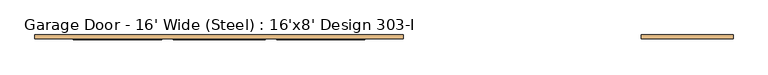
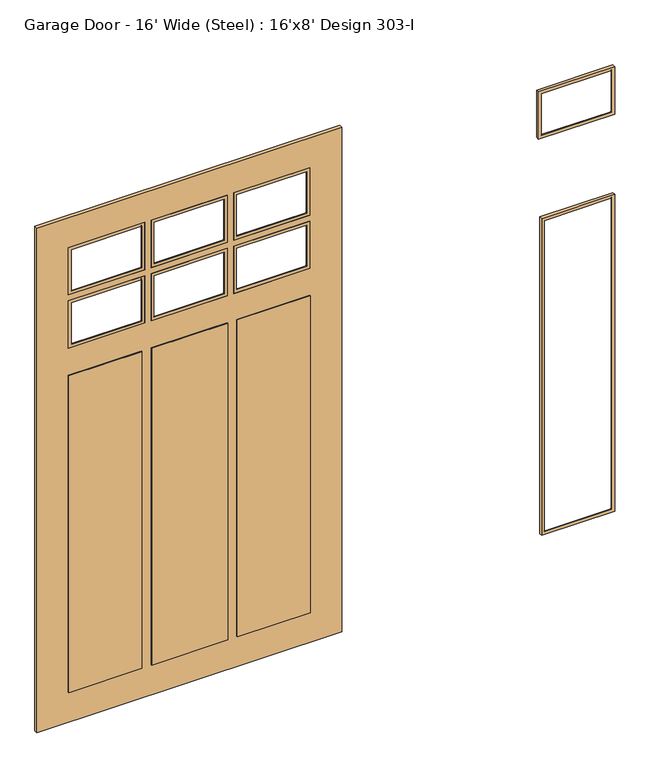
"""IFC4 building model written with IfcOpenShell, lengths in millimetres: door geometry, Garage Door - 16' Wide (Steel) : 16'x8' Design 303-I."""

from ifc_helpers import new_model, si_unit, frame, origin, place, context, project, spatial, polyline, ellipse_curve, outline, extrude, source, transform, mapped, element, save
from ifc_brep_helpers import plane_surface, cylinder_surface, advanced_brep


def garage_door_16_wide_steel_16_x8_design_303_i_88b9e82d(model_context):
    return source(origin(), model_context, "Body", "SolidModel", [
        advanced_brep(
        [(-1089.025, -107.15625, 1463.675), (-1079.5, -116.68125, 1454.15), (-1079.5, -116.68125, 139.7), (-1089.025, -107.15625, 130.175), (-1089.025, -103.98125, 1463.675), (-1089.025, -103.98125, 130.175), (-1092.2, -116.68125, 1466.85), (-1092.2, -103.98125, 1466.85), (-1092.2, -103.98125, 127.0), (-1092.2, -116.68125, 127.0), (-812.8, -116.68125, 139.7), (-803.275, -107.15625, 130.175), (-803.275, -103.98125, 130.175), (-800.1, -103.98125, 127.0), (-800.1, -116.68125, 127.0), (-812.8, -116.68125, 1454.15), (-803.275, -107.15625, 1463.675), (-803.275, -103.98125, 1463.675), (-800.1, -103.98125, 1466.85), (-800.1, -116.68125, 1466.85)],
        [
            (0, 1, ellipse_curve(frame((-1089.025, -116.68125, 1463.675), z_axis=(-0.7071067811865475, 0.0, -0.7071067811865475), x_axis=(-0.7071067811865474, 0.0, 0.7071067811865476)), 13.4703842, 9.525)),
            (1, 2),
            (2, 3, ellipse_curve(frame((-1089.025, -116.68125, 130.175), z_axis=(-0.7071067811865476, 0.0, 0.7071067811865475), x_axis=(0.7071067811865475, 0.0, 0.7071067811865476)), 13.4703842, 9.525)),
            (3, 0),
            (4, 0),
            (3, 5),
            (5, 4),
            (6, 7),
            (7, 8),
            (8, 9),
            (9, 6),
            (2, 10),
            (10, 11, ellipse_curve(frame((-803.275, -116.68125, 130.175), z_axis=(-0.7071067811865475, 0.0, -0.7071067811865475), x_axis=(-0.7071067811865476, 0.0, 0.7071067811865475)), 13.4703842, 9.525)),
            (11, 3),
            (11, 12),
            (12, 5),
            (8, 13),
            (13, 14),
            (14, 9),
            (10, 15),
            (15, 16, ellipse_curve(frame((-803.275, -116.68125, 1463.675), z_axis=(0.7071067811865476, 0.0, -0.7071067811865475), x_axis=(-0.7071067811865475, 0.0, -0.7071067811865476)), 13.4703842, 9.525)),
            (16, 11),
            (16, 17),
            (17, 12),
            (13, 18),
            (18, 19),
            (19, 14),
            (19, 6),
            (1, 15),
            (0, 16),
            (4, 17),
            (7, 18),
        ],
        [
            cylinder_surface(frame((-1089.025, -116.68125, 1466.85), z_axis=(0.0, 0.0, 1.0), x_axis=(-1.0, 0.0, 0.0)), 9.525),
            plane_surface(frame((-1089.025, -107.15625, 1463.675), z_axis=(1.0, 0.0, 0.0), x_axis=(0.0, 0.0, -1.0))),
            plane_surface(frame((-1092.2, -103.98125, 1466.85), z_axis=(-1.0, 0.0, 0.0), x_axis=(0.0, 0.0, -1.0))),
            cylinder_surface(frame((-1092.2, -116.68125, 130.175), z_axis=(-1.0, 0.0, 0.0), x_axis=(0.0, 0.0, -1.0)), 9.525),
            plane_surface(frame((-1089.025, -107.15625, 130.175), z_axis=(0.0, 0.0, 1.0), x_axis=(1.0, 0.0, 0.0))),
            plane_surface(frame((-1092.2, -103.98125, 127.0), z_axis=(0.0, 0.0, -1.0), x_axis=(1.0, 0.0, 0.0))),
            cylinder_surface(frame((-803.275, -116.68125, 127.0), z_axis=(0.0, 0.0, -1.0), x_axis=(1.0, 0.0, 0.0)), 9.525),
            plane_surface(frame((-803.275, -107.15625, 130.175), z_axis=(-1.0, 0.0, 0.0), x_axis=(0.0, 0.0, 1.0))),
            plane_surface(frame((-800.1, -103.98125, 127.0), z_axis=(1.0, 0.0, 0.0), x_axis=(0.0, 0.0, 1.0))),
            plane_surface(frame((-800.1, -116.68125, 1466.85), z_axis=(0.0, -1.0, 0.0), x_axis=(-1.0, 0.0, 0.0))),
            cylinder_surface(frame((-800.1, -116.68125, 1463.675), z_axis=(1.0, 0.0, 0.0), x_axis=(0.0, 0.0, 1.0)), 9.525),
            plane_surface(frame((-803.275, -107.15625, 1463.675), z_axis=(0.0, 0.0, -1.0), x_axis=(-1.0, 0.0, 0.0))),
            plane_surface(frame((-803.275, -103.98125, 1463.675), z_axis=(0.0, 1.0, 0.0), x_axis=(-1.0, 0.0, 0.0))),
            plane_surface(frame((-800.1, -103.98125, 1466.85), z_axis=(0.0, 0.0, 1.0), x_axis=(-1.0, 0.0, 0.0))),
        ],
        [
            (0, [[1, 2, 3, 4]]),
            (1, [[5, -4, 6, 7]]),
            (2, [[8, 9, 10, 11]]),
            (3, [[-3, 12, 13, 14]]),
            (4, [[-6, -14, 15, 16]]),
            (5, [[-10, 17, 18, 19]]),
            (6, [[-13, 20, 21, 22]]),
            (7, [[-15, -22, 23, 24]]),
            (8, [[-18, 25, 26, 27]]),
            (9, [[-19, -27, 28, -11], [29, -20, -12, -2]]),
            (10, [[-21, -29, -1, 30]]),
            (11, [[-23, -30, -5, 31]]),
            (12, [[32, -25, -17, -9], [-16, -24, -31, -7]]),
            (13, [[-26, -32, -8, -28]]),
        ],
    ),
        advanced_brep(
        [(-1089.0236908, -107.15625, 2003.4236908), (-1079.4986908, -116.68125, 1993.8986908), (-1079.4986908, -116.68125, 1819.2736908), (-1089.0236908, -107.15625, 1809.7486908), (-1089.0236908, -103.98125, 2003.4236908), (-1089.0236908, -103.98125, 1809.7486908), (-1092.1973817, -116.68125, 2006.5973817), (-1092.1973817, -103.98125, 2006.5973817), (-1092.1973817, -103.98125, 1806.575), (-1092.1973817, -116.68125, 1806.575), (-800.0986908, -116.68125, 1819.2736908), (-790.5736908, -107.15625, 1809.7486908), (-790.5736908, -103.98125, 1809.7486908), (-787.4, -103.98125, 1806.575), (-787.4, -116.68125, 1806.575), (-800.0986908, -116.68125, 1993.8986908), (-790.5736908, -107.15625, 2003.4236908), (-790.5736908, -103.98125, 2003.4236908), (-787.4, -103.98125, 2006.5973817), (-787.4, -116.68125, 2006.5973817)],
        [
            (0, 1, ellipse_curve(frame((-1089.0236908, -116.68125, 2003.4236908), z_axis=(-0.7071067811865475, 0.0, -0.7071067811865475), x_axis=(-0.7071067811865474, 0.0, 0.7071067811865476)), 13.4703842, 9.525)),
            (1, 2),
            (2, 3, ellipse_curve(frame((-1089.0236908, -116.68125, 1809.7486908), z_axis=(-0.7071067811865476, 0.0, 0.7071067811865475), x_axis=(0.7071067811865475, 0.0, 0.7071067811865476)), 13.4703842, 9.525)),
            (3, 0),
            (4, 0),
            (3, 5),
            (5, 4),
            (6, 7),
            (7, 8),
            (8, 9),
            (9, 6),
            (2, 10),
            (10, 11, ellipse_curve(frame((-790.5736908, -116.68125, 1809.7486908), z_axis=(-0.7071067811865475, 0.0, -0.7071067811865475), x_axis=(-0.7071067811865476, 0.0, 0.7071067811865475)), 13.4703842, 9.525)),
            (11, 3),
            (11, 12),
            (12, 5),
            (8, 13),
            (13, 14),
            (14, 9),
            (10, 15),
            (15, 16, ellipse_curve(frame((-790.5736908, -116.68125, 2003.4236908), z_axis=(0.7071067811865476, 0.0, -0.7071067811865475), x_axis=(-0.7071067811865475, 0.0, -0.7071067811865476)), 13.4703842, 9.525)),
            (16, 11),
            (16, 17),
            (17, 12),
            (13, 18),
            (18, 19),
            (19, 14),
            (19, 6),
            (1, 15),
            (0, 16),
            (4, 17),
            (7, 18),
        ],
        [
            cylinder_surface(frame((-1089.0236908, -116.68125, 2006.5973817), z_axis=(0.0, 0.0, 1.0), x_axis=(-1.0, 0.0, 0.0)), 9.525),
            plane_surface(frame((-1089.0236908, -107.15625, 2003.4236908), z_axis=(1.0, 0.0, 0.0), x_axis=(0.0, 0.0, -1.0))),
            plane_surface(frame((-1092.1973817, -103.98125, 2006.5973817), z_axis=(-1.0, 0.0, 0.0), x_axis=(0.0, 0.0, -1.0))),
            cylinder_surface(frame((-1092.1973817, -116.68125, 1809.7486908), z_axis=(-1.0, 0.0, 0.0), x_axis=(0.0, 0.0, -1.0)), 9.525),
            plane_surface(frame((-1089.0236908, -107.15625, 1809.7486908), z_axis=(0.0, 0.0, 1.0), x_axis=(1.0, 0.0, 0.0))),
            plane_surface(frame((-1092.1973817, -103.98125, 1806.575), z_axis=(0.0, 0.0, -1.0), x_axis=(1.0, 0.0, 0.0))),
            cylinder_surface(frame((-790.5736908, -116.68125, 1806.575), z_axis=(0.0, 0.0, -1.0), x_axis=(1.0, 0.0, 0.0)), 9.525),
            plane_surface(frame((-790.5736908, -107.15625, 1809.7486908), z_axis=(-1.0, 0.0, 0.0), x_axis=(0.0, 0.0, 1.0))),
            plane_surface(frame((-787.4, -103.98125, 1806.575), z_axis=(1.0, 0.0, 0.0), x_axis=(0.0, 0.0, 1.0))),
            plane_surface(frame((-787.4, -116.68125, 2006.5973817), z_axis=(0.0, -1.0, 0.0), x_axis=(-1.0, 0.0, 0.0))),
            cylinder_surface(frame((-787.4, -116.68125, 2003.4236908), z_axis=(1.0, 0.0, 0.0), x_axis=(0.0, 0.0, 1.0)), 9.525),
            plane_surface(frame((-790.5736908, -107.15625, 2003.4236908), z_axis=(0.0, 0.0, -1.0), x_axis=(-1.0, 0.0, 0.0))),
            plane_surface(frame((-790.5736908, -103.98125, 2003.4236908), z_axis=(0.0, 1.0, 0.0), x_axis=(-1.0, 0.0, 0.0))),
            plane_surface(frame((-787.4, -103.98125, 2006.5973817), z_axis=(0.0, 0.0, 1.0), x_axis=(-1.0, 0.0, 0.0))),
        ],
        [
            (0, [[1, 2, 3, 4]]),
            (1, [[5, -4, 6, 7]]),
            (2, [[8, 9, 10, 11]]),
            (3, [[-3, 12, 13, 14]]),
            (4, [[-6, -14, 15, 16]]),
            (5, [[-10, 17, 18, 19]]),
            (6, [[-13, 20, 21, 22]]),
            (7, [[-15, -22, 23, 24]]),
            (8, [[-18, 25, 26, 27]]),
            (9, [[-19, -27, 28, -11], [29, -20, -12, -2]]),
            (10, [[-21, -29, -1, 30]]),
            (11, [[-23, -30, -5, 31]]),
            (12, [[32, -25, -17, -9], [-16, -24, -31, -7]]),
            (13, [[-26, -32, -8, -28]]),
        ],
    ),
        advanced_brep(
        [(-758.8236908, -107.15625, 2003.4236908), (-749.2986908, -116.68125, 1993.8986908), (-749.2986908, -116.68125, 1819.2763092), (-758.8236908, -107.15625, 1809.7513092), (-758.8236908, -103.98125, 2003.4236908), (-758.8236908, -103.98125, 1809.7513092), (-761.9986908, -116.68125, 2006.5986908), (-761.9986908, -103.98125, 2006.5986908), (-761.9986908, -103.98125, 1806.5763092), (-761.9986908, -116.68125, 1806.5763092), (-469.9013092, -116.68125, 1819.2763092), (-460.3763092, -107.15625, 1809.7513092), (-460.3763092, -103.98125, 1809.7513092), (-457.2013092, -103.98125, 1806.5763092), (-457.2013092, -116.68125, 1806.5763092), (-469.9013092, -116.68125, 1993.8986908), (-460.3763092, -107.15625, 2003.4236908), (-460.3763092, -103.98125, 2003.4236908), (-457.2013092, -103.98125, 2006.5986908), (-457.2013092, -116.68125, 2006.5986908)],
        [
            (0, 1, ellipse_curve(frame((-758.8236908, -116.68125, 2003.4236908), z_axis=(-0.7071067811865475, 0.0, -0.7071067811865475), x_axis=(-0.7071067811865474, 0.0, 0.7071067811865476)), 13.4703842, 9.525)),
            (1, 2),
            (2, 3, ellipse_curve(frame((-758.8236908, -116.68125, 1809.7513092), z_axis=(-0.7071067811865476, 0.0, 0.7071067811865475), x_axis=(0.7071067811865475, 0.0, 0.7071067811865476)), 13.4703842, 9.525)),
            (3, 0),
            (4, 0),
            (3, 5),
            (5, 4),
            (6, 7),
            (7, 8),
            (8, 9),
            (9, 6),
            (2, 10),
            (10, 11, ellipse_curve(frame((-460.3763092, -116.68125, 1809.7513092), z_axis=(-0.7071067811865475, 0.0, -0.7071067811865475), x_axis=(-0.7071067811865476, 0.0, 0.7071067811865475)), 13.4703842, 9.525)),
            (11, 3),
            (11, 12),
            (12, 5),
            (8, 13),
            (13, 14),
            (14, 9),
            (10, 15),
            (15, 16, ellipse_curve(frame((-460.3763092, -116.68125, 2003.4236908), z_axis=(0.7071067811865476, 0.0, -0.7071067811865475), x_axis=(-0.7071067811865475, 0.0, -0.7071067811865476)), 13.4703842, 9.525)),
            (16, 11),
            (16, 17),
            (17, 12),
            (13, 18),
            (18, 19),
            (19, 14),
            (19, 6),
            (1, 15),
            (0, 16),
            (4, 17),
            (7, 18),
        ],
        [
            cylinder_surface(frame((-758.8236908, -116.68125, 2006.6), z_axis=(0.0, 0.0, 1.0), x_axis=(-1.0, 0.0, 0.0)), 9.525),
            plane_surface(frame((-758.8236908, -107.15625, 2003.4236908), z_axis=(1.0, 0.0, 0.0), x_axis=(0.0, 0.0, -1.0))),
            plane_surface(frame((-761.9986908, -103.98125, 2006.5986908), z_axis=(-1.0, 0.0, 0.0), x_axis=(0.0, 0.0, -1.0))),
            cylinder_surface(frame((-762.0, -116.68125, 1809.7513092), z_axis=(-1.0, 0.0, 0.0), x_axis=(0.0, 0.0, -1.0)), 9.525),
            plane_surface(frame((-758.8236908, -107.15625, 1809.7513092), z_axis=(0.0, 0.0, 1.0), x_axis=(1.0, 0.0, 0.0))),
            plane_surface(frame((-761.9986908, -103.98125, 1806.5763092), z_axis=(0.0, 0.0, -1.0), x_axis=(1.0, 0.0, 0.0))),
            cylinder_surface(frame((-460.3763092, -116.68125, 1806.575), z_axis=(0.0, 0.0, -1.0), x_axis=(1.0, 0.0, 0.0)), 9.525),
            plane_surface(frame((-460.3763092, -107.15625, 1809.7513092), z_axis=(-1.0, 0.0, 0.0), x_axis=(0.0, 0.0, 1.0))),
            plane_surface(frame((-457.2013092, -103.98125, 1806.5763092), z_axis=(1.0, 0.0, 0.0), x_axis=(0.0, 0.0, 1.0))),
            plane_surface(frame((-457.2013092, -116.68125, 2006.5986908), z_axis=(0.0, -1.0, 0.0), x_axis=(-1.0, 0.0, 0.0))),
            cylinder_surface(frame((-457.2, -116.68125, 2003.4236908), z_axis=(1.0, 0.0, 0.0), x_axis=(0.0, 0.0, 1.0)), 9.525),
            plane_surface(frame((-460.3763092, -107.15625, 2003.4236908), z_axis=(0.0, 0.0, -1.0), x_axis=(-1.0, 0.0, 0.0))),
            plane_surface(frame((-460.3763092, -103.98125, 2003.4236908), z_axis=(0.0, 1.0, 0.0), x_axis=(-1.0, 0.0, 0.0))),
            plane_surface(frame((-457.2013092, -103.98125, 2006.5986908), z_axis=(0.0, 0.0, 1.0), x_axis=(-1.0, 0.0, 0.0))),
        ],
        [
            (0, [[1, 2, 3, 4]]),
            (1, [[5, -4, 6, 7]]),
            (2, [[8, 9, 10, 11]]),
            (3, [[-3, 12, 13, 14]]),
            (4, [[-6, -14, 15, 16]]),
            (5, [[-10, 17, 18, 19]]),
            (6, [[-13, 20, 21, 22]]),
            (7, [[-15, -22, 23, 24]]),
            (8, [[-18, 25, 26, 27]]),
            (9, [[-19, -27, 28, -11], [29, -20, -12, -2]]),
            (10, [[-21, -29, -1, 30]]),
            (11, [[-23, -30, -5, 31]]),
            (12, [[32, -25, -17, -9], [-16, -24, -31, -7]]),
            (13, [[-26, -32, -8, -28]]),
        ],
    ),
        advanced_brep(
        [(-428.6276183, -107.15625, 2003.425), (-419.1026183, -116.68125, 1993.9), (-419.1026183, -116.68125, 1819.2723817), (-428.6276183, -107.15625, 1809.7473817), (-428.6276183, -103.98125, 2003.425), (-428.6276183, -103.98125, 1809.7473817), (-431.8026183, -116.68125, 2006.6), (-431.8026183, -103.98125, 2006.6), (-431.8026183, -103.98125, 1806.5723817), (-431.8026183, -116.68125, 1806.5723817), (-139.7, -116.68125, 1819.2723817), (-130.175, -107.15625, 1809.7473817), (-130.175, -103.98125, 1809.7473817), (-127.0, -103.98125, 1806.5723817), (-127.0, -116.68125, 1806.5723817), (-139.7, -116.68125, 1993.9), (-130.175, -107.15625, 2003.425), (-130.175, -103.98125, 2003.425), (-127.0, -103.98125, 2006.6), (-127.0, -116.68125, 2006.6)],
        [
            (0, 1, ellipse_curve(frame((-428.6276183, -116.68125, 2003.425), z_axis=(-0.7071067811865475, 0.0, -0.7071067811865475), x_axis=(-0.7071067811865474, 0.0, 0.7071067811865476)), 13.4703842, 9.525)),
            (1, 2),
            (2, 3, ellipse_curve(frame((-428.6276183, -116.68125, 1809.7473817), z_axis=(-0.7071067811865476, 0.0, 0.7071067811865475), x_axis=(0.7071067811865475, 0.0, 0.7071067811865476)), 13.4703842, 9.525)),
            (3, 0),
            (4, 0),
            (3, 5),
            (5, 4),
            (6, 7),
            (7, 8),
            (8, 9),
            (9, 6),
            (2, 10),
            (10, 11, ellipse_curve(frame((-130.175, -116.68125, 1809.7473817), z_axis=(-0.7071067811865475, 0.0, -0.7071067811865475), x_axis=(-0.7071067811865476, 0.0, 0.7071067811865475)), 13.4703842, 9.525)),
            (11, 3),
            (11, 12),
            (12, 5),
            (8, 13),
            (13, 14),
            (14, 9),
            (10, 15),
            (15, 16, ellipse_curve(frame((-130.175, -116.68125, 2003.425), z_axis=(0.7071067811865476, 0.0, -0.7071067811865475), x_axis=(-0.7071067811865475, 0.0, -0.7071067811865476)), 13.4703842, 9.525)),
            (16, 11),
            (16, 17),
            (17, 12),
            (13, 18),
            (18, 19),
            (19, 14),
            (19, 6),
            (1, 15),
            (0, 16),
            (4, 17),
            (7, 18),
        ],
        [
            cylinder_surface(frame((-428.6276183, -116.68125, 2006.5973817), z_axis=(0.0, 0.0, 1.0), x_axis=(-1.0, 0.0, 0.0)), 9.525),
            plane_surface(frame((-428.6276183, -107.15625, 2003.425), z_axis=(1.0, 0.0, 0.0), x_axis=(0.0, 0.0, -1.0))),
            plane_surface(frame((-431.8026183, -103.98125, 2006.6), z_axis=(-1.0, 0.0, 0.0), x_axis=(0.0, 0.0, -1.0))),
            cylinder_surface(frame((-431.8, -116.68125, 1809.7473817), z_axis=(-1.0, 0.0, 0.0), x_axis=(0.0, 0.0, -1.0)), 9.525),
            plane_surface(frame((-428.6276183, -107.15625, 1809.7473817), z_axis=(0.0, 0.0, 1.0), x_axis=(1.0, 0.0, 0.0))),
            plane_surface(frame((-431.8026183, -103.98125, 1806.5723817), z_axis=(0.0, 0.0, -1.0), x_axis=(1.0, 0.0, 0.0))),
            cylinder_surface(frame((-130.175, -116.68125, 1806.575), z_axis=(0.0, 0.0, -1.0), x_axis=(1.0, 0.0, 0.0)), 9.525),
            plane_surface(frame((-130.175, -107.15625, 1809.7473817), z_axis=(-1.0, 0.0, 0.0), x_axis=(0.0, 0.0, 1.0))),
            plane_surface(frame((-127.0, -103.98125, 1806.5723817), z_axis=(1.0, 0.0, 0.0), x_axis=(0.0, 0.0, 1.0))),
            plane_surface(frame((-127.0, -116.68125, 2006.6), z_axis=(0.0, -1.0, 0.0), x_axis=(-1.0, 0.0, 0.0))),
            cylinder_surface(frame((-127.0026183, -116.68125, 2003.425), z_axis=(1.0, 0.0, 0.0), x_axis=(0.0, 0.0, 1.0)), 9.525),
            plane_surface(frame((-130.175, -107.15625, 2003.425), z_axis=(0.0, 0.0, -1.0), x_axis=(-1.0, 0.0, 0.0))),
            plane_surface(frame((-130.175, -103.98125, 2003.425), z_axis=(0.0, 1.0, 0.0), x_axis=(-1.0, 0.0, 0.0))),
            plane_surface(frame((-127.0, -103.98125, 2006.6), z_axis=(0.0, 0.0, 1.0), x_axis=(-1.0, 0.0, 0.0))),
        ],
        [
            (0, [[1, 2, 3, 4]]),
            (1, [[5, -4, 6, 7]]),
            (2, [[8, 9, 10, 11]]),
            (3, [[-3, 12, 13, 14]]),
            (4, [[-6, -14, 15, 16]]),
            (5, [[-10, 17, 18, 19]]),
            (6, [[-13, 20, 21, 22]]),
            (7, [[-15, -22, 23, 24]]),
            (8, [[-18, 25, 26, 27]]),
            (9, [[-19, -27, 28, -11], [29, -20, -12, -2]]),
            (10, [[-21, -29, -1, 30]]),
            (11, [[-23, -30, -5, 31]]),
            (12, [[32, -25, -17, -9], [-16, -24, -31, -7]]),
            (13, [[-26, -32, -8, -28]]),
        ],
    ),
        advanced_brep(
        [(-1089.025, -107.15625, 1778.0), (-1079.5, -116.68125, 1768.475), (-1079.5, -116.68125, 1593.85), (-1089.025, -107.15625, 1584.325), (-1089.025, -103.98125, 1778.0), (-1089.025, -103.98125, 1584.325), (-1092.2, -116.68125, 1781.175), (-1092.2, -103.98125, 1781.175), (-1092.2, -103.98125, 1581.15), (-1092.2, -116.68125, 1581.15), (-800.1, -116.68125, 1593.85), (-790.575, -107.15625, 1584.325), (-790.575, -103.98125, 1584.325), (-787.4, -103.98125, 1581.15), (-787.4, -116.68125, 1581.15), (-800.1, -116.68125, 1768.475), (-790.575, -107.15625, 1778.0), (-790.575, -103.98125, 1778.0), (-787.4, -103.98125, 1781.175), (-787.4, -116.68125, 1781.175)],
        [
            (0, 1, ellipse_curve(frame((-1089.025, -116.68125, 1778.0), z_axis=(-0.7071067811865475, 0.0, -0.7071067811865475), x_axis=(-0.7071067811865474, 0.0, 0.7071067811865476)), 13.4703842, 9.525)),
            (1, 2),
            (2, 3, ellipse_curve(frame((-1089.025, -116.68125, 1584.325), z_axis=(-0.7071067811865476, 0.0, 0.7071067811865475), x_axis=(0.7071067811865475, 0.0, 0.7071067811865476)), 13.4703842, 9.525)),
            (3, 0),
            (4, 0),
            (3, 5),
            (5, 4),
            (6, 7),
            (7, 8),
            (8, 9),
            (9, 6),
            (2, 10),
            (10, 11, ellipse_curve(frame((-790.575, -116.68125, 1584.325), z_axis=(-0.7071067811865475, 0.0, -0.7071067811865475), x_axis=(-0.7071067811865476, 0.0, 0.7071067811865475)), 13.4703842, 9.525)),
            (11, 3),
            (11, 12),
            (12, 5),
            (8, 13),
            (13, 14),
            (14, 9),
            (10, 15),
            (15, 16, ellipse_curve(frame((-790.575, -116.68125, 1778.0), z_axis=(0.7071067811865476, 0.0, -0.7071067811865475), x_axis=(-0.7071067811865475, 0.0, -0.7071067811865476)), 13.4703842, 9.525)),
            (16, 11),
            (16, 17),
            (17, 12),
            (13, 18),
            (18, 19),
            (19, 14),
            (19, 6),
            (1, 15),
            (0, 16),
            (4, 17),
            (7, 18),
        ],
        [
            cylinder_surface(frame((-1089.025, -116.68125, 1781.175), z_axis=(0.0, 0.0, 1.0), x_axis=(-1.0, 0.0, 0.0)), 9.525),
            plane_surface(frame((-1089.025, -107.15625, 1778.0), z_axis=(1.0, 0.0, 0.0), x_axis=(0.0, 0.0, -1.0))),
            plane_surface(frame((-1092.2, -103.98125, 1781.175), z_axis=(-1.0, 0.0, 0.0), x_axis=(0.0, 0.0, -1.0))),
            cylinder_surface(frame((-1092.2, -116.68125, 1584.325), z_axis=(-1.0, 0.0, 0.0), x_axis=(0.0, 0.0, -1.0)), 9.525),
            plane_surface(frame((-1089.025, -107.15625, 1584.325), z_axis=(0.0, 0.0, 1.0), x_axis=(1.0, 0.0, 0.0))),
            plane_surface(frame((-1092.2, -103.98125, 1581.15), z_axis=(0.0, 0.0, -1.0), x_axis=(1.0, 0.0, 0.0))),
            cylinder_surface(frame((-790.575, -116.68125, 1581.15), z_axis=(0.0, 0.0, -1.0), x_axis=(1.0, 0.0, 0.0)), 9.525),
            plane_surface(frame((-790.575, -107.15625, 1584.325), z_axis=(-1.0, 0.0, 0.0), x_axis=(0.0, 0.0, 1.0))),
            plane_surface(frame((-787.4, -103.98125, 1581.15), z_axis=(1.0, 0.0, 0.0), x_axis=(0.0, 0.0, 1.0))),
            plane_surface(frame((-787.4, -116.68125, 1781.175), z_axis=(0.0, -1.0, 0.0), x_axis=(-1.0, 0.0, 0.0))),
            cylinder_surface(frame((-787.4, -116.68125, 1778.0), z_axis=(1.0, 0.0, 0.0), x_axis=(0.0, 0.0, 1.0)), 9.525),
            plane_surface(frame((-790.575, -107.15625, 1778.0), z_axis=(0.0, 0.0, -1.0), x_axis=(-1.0, 0.0, 0.0))),
            plane_surface(frame((-790.575, -103.98125, 1778.0), z_axis=(0.0, 1.0, 0.0), x_axis=(-1.0, 0.0, 0.0))),
            plane_surface(frame((-787.4, -103.98125, 1781.175), z_axis=(0.0, 0.0, 1.0), x_axis=(-1.0, 0.0, 0.0))),
        ],
        [
            (0, [[1, 2, 3, 4]]),
            (1, [[5, -4, 6, 7]]),
            (2, [[8, 9, 10, 11]]),
            (3, [[-3, 12, 13, 14]]),
            (4, [[-6, -14, 15, 16]]),
            (5, [[-10, 17, 18, 19]]),
            (6, [[-13, 20, 21, 22]]),
            (7, [[-15, -22, 23, 24]]),
            (8, [[-18, 25, 26, 27]]),
            (9, [[-19, -27, 28, -11], [29, -20, -12, -2]]),
            (10, [[-21, -29, -1, 30]]),
            (11, [[-23, -30, -5, 31]]),
            (12, [[32, -25, -17, -9], [-16, -24, -31, -7]]),
            (13, [[-26, -32, -8, -28]]),
        ],
    ),
        advanced_brep(
        [(-758.825, -107.15625, 1778.0), (-749.3, -116.68125, 1768.475), (-749.3, -116.68125, 1593.85), (-758.825, -107.15625, 1584.325), (-758.825, -103.98125, 1778.0), (-758.825, -103.98125, 1584.325), (-762.0, -116.68125, 1781.175), (-762.0, -103.98125, 1781.175), (-762.0, -103.98125, 1581.15), (-762.0, -116.68125, 1581.15), (-469.9, -116.68125, 1593.85), (-460.375, -107.15625, 1584.325), (-460.375, -103.98125, 1584.325), (-457.2, -103.98125, 1581.15), (-457.2, -116.68125, 1581.15), (-469.9, -116.68125, 1768.475), (-460.375, -107.15625, 1778.0), (-460.375, -103.98125, 1778.0), (-457.2, -103.98125, 1781.175), (-457.2, -116.68125, 1781.175)],
        [
            (0, 1, ellipse_curve(frame((-758.825, -116.68125, 1778.0), z_axis=(-0.7071067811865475, 0.0, -0.7071067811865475), x_axis=(-0.7071067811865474, 0.0, 0.7071067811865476)), 13.4703842, 9.525)),
            (1, 2),
            (2, 3, ellipse_curve(frame((-758.825, -116.68125, 1584.325), z_axis=(-0.7071067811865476, 0.0, 0.7071067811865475), x_axis=(0.7071067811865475, 0.0, 0.7071067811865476)), 13.4703842, 9.525)),
            (3, 0),
            (4, 0),
            (3, 5),
            (5, 4),
            (6, 7),
            (7, 8),
            (8, 9),
            (9, 6),
            (2, 10),
            (10, 11, ellipse_curve(frame((-460.375, -116.68125, 1584.325), z_axis=(-0.7071067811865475, 0.0, -0.7071067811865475), x_axis=(-0.7071067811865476, 0.0, 0.7071067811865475)), 13.4703842, 9.525)),
            (11, 3),
            (11, 12),
            (12, 5),
            (8, 13),
            (13, 14),
            (14, 9),
            (10, 15),
            (15, 16, ellipse_curve(frame((-460.375, -116.68125, 1778.0), z_axis=(0.7071067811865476, 0.0, -0.7071067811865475), x_axis=(-0.7071067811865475, 0.0, -0.7071067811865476)), 13.4703842, 9.525)),
            (16, 11),
            (16, 17),
            (17, 12),
            (13, 18),
            (18, 19),
            (19, 14),
            (19, 6),
            (1, 15),
            (0, 16),
            (4, 17),
            (7, 18),
        ],
        [
            cylinder_surface(frame((-758.825, -116.68125, 1781.175), z_axis=(0.0, 0.0, 1.0), x_axis=(-1.0, 0.0, 0.0)), 9.525),
            plane_surface(frame((-758.825, -107.15625, 1778.0), z_axis=(1.0, 0.0, 0.0), x_axis=(0.0, 0.0, -1.0))),
            plane_surface(frame((-762.0, -103.98125, 1781.175), z_axis=(-1.0, 0.0, 0.0), x_axis=(0.0, 0.0, -1.0))),
            cylinder_surface(frame((-762.0, -116.68125, 1584.325), z_axis=(-1.0, 0.0, 0.0), x_axis=(0.0, 0.0, -1.0)), 9.525),
            plane_surface(frame((-758.825, -107.15625, 1584.325), z_axis=(0.0, 0.0, 1.0), x_axis=(1.0, 0.0, 0.0))),
            plane_surface(frame((-762.0, -103.98125, 1581.15), z_axis=(0.0, 0.0, -1.0), x_axis=(1.0, 0.0, 0.0))),
            cylinder_surface(frame((-460.375, -116.68125, 1581.15), z_axis=(0.0, 0.0, -1.0), x_axis=(1.0, 0.0, 0.0)), 9.525),
            plane_surface(frame((-460.375, -107.15625, 1584.325), z_axis=(-1.0, 0.0, 0.0), x_axis=(0.0, 0.0, 1.0))),
            plane_surface(frame((-457.2, -103.98125, 1581.15), z_axis=(1.0, 0.0, 0.0), x_axis=(0.0, 0.0, 1.0))),
            plane_surface(frame((-457.2, -116.68125, 1781.175), z_axis=(0.0, -1.0, 0.0), x_axis=(-1.0, 0.0, 0.0))),
            cylinder_surface(frame((-457.2, -116.68125, 1778.0), z_axis=(1.0, 0.0, 0.0), x_axis=(0.0, 0.0, 1.0)), 9.525),
            plane_surface(frame((-460.375, -107.15625, 1778.0), z_axis=(0.0, 0.0, -1.0), x_axis=(-1.0, 0.0, 0.0))),
            plane_surface(frame((-460.375, -103.98125, 1778.0), z_axis=(0.0, 1.0, 0.0), x_axis=(-1.0, 0.0, 0.0))),
            plane_surface(frame((-457.2, -103.98125, 1781.175), z_axis=(0.0, 0.0, 1.0), x_axis=(-1.0, 0.0, 0.0))),
        ],
        [
            (0, [[1, 2, 3, 4]]),
            (1, [[5, -4, 6, 7]]),
            (2, [[8, 9, 10, 11]]),
            (3, [[-3, 12, 13, 14]]),
            (4, [[-6, -14, 15, 16]]),
            (5, [[-10, 17, 18, 19]]),
            (6, [[-13, 20, 21, 22]]),
            (7, [[-15, -22, 23, 24]]),
            (8, [[-18, 25, 26, 27]]),
            (9, [[-19, -27, 28, -11], [29, -20, -12, -2]]),
            (10, [[-21, -29, -1, 30]]),
            (11, [[-23, -30, -5, 31]]),
            (12, [[32, -25, -17, -9], [-16, -24, -31, -7]]),
            (13, [[-26, -32, -8, -28]]),
        ],
    ),
        advanced_brep(
        [(-428.625, -107.15625, 1778.0), (-419.1, -116.68125, 1768.475), (-419.1, -116.68125, 1593.85), (-428.625, -107.15625, 1584.325), (-428.625, -103.98125, 1778.0), (-428.625, -103.98125, 1584.325), (-431.8, -116.68125, 1781.175), (-431.8, -103.98125, 1781.175), (-431.8, -103.98125, 1581.15), (-431.8, -116.68125, 1581.15), (-139.7, -116.68125, 1593.85), (-130.175, -107.15625, 1584.325), (-130.175, -103.98125, 1584.325), (-127.0, -103.98125, 1581.15), (-127.0, -116.68125, 1581.15), (-139.7, -116.68125, 1768.475), (-130.175, -107.15625, 1778.0), (-130.175, -103.98125, 1778.0), (-127.0, -103.98125, 1781.175), (-127.0, -116.68125, 1781.175)],
        [
            (0, 1, ellipse_curve(frame((-428.625, -116.68125, 1778.0), z_axis=(-0.7071067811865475, 0.0, -0.7071067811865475), x_axis=(-0.7071067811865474, 0.0, 0.7071067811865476)), 13.4703842, 9.525)),
            (1, 2),
            (2, 3, ellipse_curve(frame((-428.625, -116.68125, 1584.325), z_axis=(-0.7071067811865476, 0.0, 0.7071067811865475), x_axis=(0.7071067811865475, 0.0, 0.7071067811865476)), 13.4703842, 9.525)),
            (3, 0),
            (4, 0),
            (3, 5),
            (5, 4),
            (6, 7),
            (7, 8),
            (8, 9),
            (9, 6),
            (2, 10),
            (10, 11, ellipse_curve(frame((-130.175, -116.68125, 1584.325), z_axis=(-0.7071067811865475, 0.0, -0.7071067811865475), x_axis=(-0.7071067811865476, 0.0, 0.7071067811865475)), 13.4703842, 9.525)),
            (11, 3),
            (11, 12),
            (12, 5),
            (8, 13),
            (13, 14),
            (14, 9),
            (10, 15),
            (15, 16, ellipse_curve(frame((-130.175, -116.68125, 1778.0), z_axis=(0.7071067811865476, 0.0, -0.7071067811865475), x_axis=(-0.7071067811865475, 0.0, -0.7071067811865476)), 13.4703842, 9.525)),
            (16, 11),
            (16, 17),
            (17, 12),
            (13, 18),
            (18, 19),
            (19, 14),
            (19, 6),
            (1, 15),
            (0, 16),
            (4, 17),
            (7, 18),
        ],
        [
            cylinder_surface(frame((-428.625, -116.68125, 1781.175), z_axis=(0.0, 0.0, 1.0), x_axis=(-1.0, 0.0, 0.0)), 9.525),
            plane_surface(frame((-428.625, -107.15625, 1778.0), z_axis=(1.0, 0.0, 0.0), x_axis=(0.0, 0.0, -1.0))),
            plane_surface(frame((-431.8, -103.98125, 1781.175), z_axis=(-1.0, 0.0, 0.0), x_axis=(0.0, 0.0, -1.0))),
            cylinder_surface(frame((-431.8, -116.68125, 1584.325), z_axis=(-1.0, 0.0, 0.0), x_axis=(0.0, 0.0, -1.0)), 9.525),
            plane_surface(frame((-428.625, -107.15625, 1584.325), z_axis=(0.0, 0.0, 1.0), x_axis=(1.0, 0.0, 0.0))),
            plane_surface(frame((-431.8, -103.98125, 1581.15), z_axis=(0.0, 0.0, -1.0), x_axis=(1.0, 0.0, 0.0))),
            cylinder_surface(frame((-130.175, -116.68125, 1581.15), z_axis=(0.0, 0.0, -1.0), x_axis=(1.0, 0.0, 0.0)), 9.525),
            plane_surface(frame((-130.175, -107.15625, 1584.325), z_axis=(-1.0, 0.0, 0.0), x_axis=(0.0, 0.0, 1.0))),
            plane_surface(frame((-127.0, -103.98125, 1581.15), z_axis=(1.0, 0.0, 0.0), x_axis=(0.0, 0.0, 1.0))),
            plane_surface(frame((-127.0, -116.68125, 1781.175), z_axis=(0.0, -1.0, 0.0), x_axis=(-1.0, 0.0, 0.0))),
            cylinder_surface(frame((-127.0, -116.68125, 1778.0), z_axis=(1.0, 0.0, 0.0), x_axis=(0.0, 0.0, 1.0)), 9.525),
            plane_surface(frame((-130.175, -107.15625, 1778.0), z_axis=(0.0, 0.0, -1.0), x_axis=(-1.0, 0.0, 0.0))),
            plane_surface(frame((-130.175, -103.98125, 1778.0), z_axis=(0.0, 1.0, 0.0), x_axis=(-1.0, 0.0, 0.0))),
            plane_surface(frame((-127.0, -103.98125, 1781.175), z_axis=(0.0, 0.0, 1.0), x_axis=(-1.0, 0.0, 0.0))),
        ],
        [
            (0, [[1, 2, 3, 4]]),
            (1, [[5, -4, 6, 7]]),
            (2, [[8, 9, 10, 11]]),
            (3, [[-3, 12, 13, 14]]),
            (4, [[-6, -14, 15, 16]]),
            (5, [[-10, 17, 18, 19]]),
            (6, [[-13, 20, 21, 22]]),
            (7, [[-15, -22, 23, 24]]),
            (8, [[-18, 25, 26, 27]]),
            (9, [[-19, -27, 28, -11], [29, -20, -12, -2]]),
            (10, [[-21, -29, -1, 30]]),
            (11, [[-23, -30, -5, 31]]),
            (12, [[32, -25, -17, -9], [-16, -24, -31, -7]]),
            (13, [[-26, -32, -8, -28]]),
        ],
    ),
        advanced_brep(
        [(-457.2, -103.98125, 1466.85), (-457.2, -116.68125, 1466.85), (-457.2, -116.68125, 127.0), (-457.2, -103.98125, 127.0), (-460.375, -107.15625, 1463.675), (-460.375, -103.98125, 1463.675), (-460.375, -103.98125, 130.175), (-460.375, -107.15625, 130.175), (-469.9, -116.68125, 1454.15), (-469.9, -116.68125, 139.7), (-762.0, -116.68125, 127.0), (-762.0, -103.98125, 127.0), (-758.825, -103.98125, 130.175), (-758.825, -107.15625, 130.175), (-749.3, -116.68125, 139.7), (-762.0, -116.68125, 1466.85), (-762.0, -103.98125, 1466.85), (-758.825, -103.98125, 1463.675), (-758.825, -107.15625, 1463.675), (-749.3, -116.68125, 1454.15)],
        [
            (0, 1),
            (1, 2),
            (2, 3),
            (3, 0),
            (4, 5),
            (5, 6),
            (6, 7),
            (7, 4),
            (8, 4, ellipse_curve(frame((-460.375, -116.68125, 1463.675), z_axis=(0.7071067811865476, 0.0, -0.7071067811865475), x_axis=(0.7071067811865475, 0.0, 0.7071067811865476)), 13.4703842, 9.525)),
            (7, 9, ellipse_curve(frame((-460.375, -116.68125, 130.175), z_axis=(0.7071067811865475, 0.0, 0.7071067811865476), x_axis=(-0.7071067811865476, 0.0, 0.7071067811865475)), 13.4703842, 9.525)),
            (9, 8),
            (2, 10),
            (10, 11),
            (11, 3),
            (6, 12),
            (12, 13),
            (13, 7),
            (13, 14, ellipse_curve(frame((-758.825, -116.68125, 130.175), z_axis=(0.7071067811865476, 0.0, -0.7071067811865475), x_axis=(0.7071067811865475, 0.0, 0.7071067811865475)), 13.4703842, 9.525)),
            (14, 9),
            (10, 15),
            (15, 16),
            (16, 11),
            (12, 17),
            (17, 18),
            (18, 13),
            (18, 19, ellipse_curve(frame((-758.825, -116.68125, 1463.675), z_axis=(-0.7071067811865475, 0.0, -0.7071067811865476), x_axis=(0.7071067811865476, 0.0, -0.7071067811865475)), 13.4703842, 9.525)),
            (19, 14),
            (15, 1),
            (0, 16),
            (5, 17),
            (4, 18),
            (8, 19),
        ],
        [
            plane_surface(frame((-457.2, -116.68125, 1466.85), z_axis=(1.0, 0.0, 0.0), x_axis=(0.0, 0.0, -1.0))),
            plane_surface(frame((-460.375, -103.98125, 1463.675), z_axis=(-1.0, 0.0, 0.0), x_axis=(0.0, 0.0, -1.0))),
            cylinder_surface(frame((-460.375, -116.68125, 1466.85), z_axis=(0.0, 0.0, 1.0), x_axis=(-1.0, 0.0, 0.0)), 9.525),
            plane_surface(frame((-457.2, -116.68125, 127.0), z_axis=(0.0, 0.0, -1.0), x_axis=(-1.0, 0.0, 0.0))),
            plane_surface(frame((-460.375, -103.98125, 130.175), z_axis=(0.0, 0.0, 1.0), x_axis=(-1.0, 0.0, 0.0))),
            cylinder_surface(frame((-457.2, -116.68125, 130.175), z_axis=(1.0, 0.0, 0.0), x_axis=(0.0, 0.0, 1.0)), 9.525),
            plane_surface(frame((-762.0, -116.68125, 127.0), z_axis=(-1.0, 0.0, 0.0), x_axis=(0.0, 0.0, 1.0))),
            plane_surface(frame((-758.825, -103.98125, 130.175), z_axis=(1.0, 0.0, 0.0), x_axis=(0.0, 0.0, 1.0))),
            cylinder_surface(frame((-758.825, -116.68125, 127.0), z_axis=(0.0, 0.0, -1.0), x_axis=(1.0, 0.0, 0.0)), 9.525),
            plane_surface(frame((-762.0, -116.68125, 1466.85), z_axis=(0.0, 0.0, 1.0), x_axis=(1.0, 0.0, 0.0))),
            plane_surface(frame((-762.0, -103.98125, 1466.85), z_axis=(0.0, 1.0, 0.0), x_axis=(1.0, 0.0, 0.0))),
            plane_surface(frame((-758.825, -103.98125, 1463.675), z_axis=(0.0, 0.0, -1.0), x_axis=(1.0, 0.0, 0.0))),
            cylinder_surface(frame((-762.0, -116.68125, 1463.675), z_axis=(-1.0, 0.0, 0.0), x_axis=(0.0, 0.0, -1.0)), 9.525),
            plane_surface(frame((-749.3, -116.68125, 1454.15), z_axis=(0.0, -1.0, 0.0), x_axis=(1.0, 0.0, 0.0))),
        ],
        [
            (0, [[1, 2, 3, 4]]),
            (1, [[5, 6, 7, 8]]),
            (2, [[9, -8, 10, 11]]),
            (3, [[-3, 12, 13, 14]]),
            (4, [[-7, 15, 16, 17]]),
            (5, [[-10, -17, 18, 19]]),
            (6, [[-13, 20, 21, 22]]),
            (7, [[-16, 23, 24, 25]]),
            (8, [[-18, -25, 26, 27]]),
            (9, [[-21, 28, -1, 29]]),
            (10, [[-14, -22, -29, -4], [30, -23, -15, -6]]),
            (11, [[-24, -30, -5, 31]]),
            (12, [[-26, -31, -9, 32]]),
            (13, [[-28, -20, -12, -2], [-19, -27, -32, -11]]),
        ],
    ),
        advanced_brep(
        [(-127.0, -103.98125, 1466.85), (-127.0, -116.68125, 1466.85), (-127.0, -116.68125, 127.0), (-127.0, -103.98125, 127.0), (-130.175, -107.15625, 1463.675), (-130.175, -103.98125, 1463.675), (-130.175, -103.98125, 130.175), (-130.175, -107.15625, 130.175), (-139.7, -116.68125, 1454.15), (-139.7, -116.68125, 139.7), (-419.1, -116.68125, 127.0), (-419.1, -103.98125, 127.0), (-415.925, -103.98125, 130.175), (-415.925, -107.15625, 130.175), (-406.4, -116.68125, 139.7), (-419.1, -116.68125, 1466.85), (-419.1, -103.98125, 1466.85), (-415.925, -103.98125, 1463.675), (-415.925, -107.15625, 1463.675), (-406.4, -116.68125, 1454.15)],
        [
            (0, 1),
            (1, 2),
            (2, 3),
            (3, 0),
            (4, 5),
            (5, 6),
            (6, 7),
            (7, 4),
            (8, 4, ellipse_curve(frame((-130.175, -116.68125, 1463.675), z_axis=(0.7071067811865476, 0.0, -0.7071067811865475), x_axis=(0.7071067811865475, 0.0, 0.7071067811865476)), 13.4703842, 9.525)),
            (7, 9, ellipse_curve(frame((-130.175, -116.68125, 130.175), z_axis=(0.7071067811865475, 0.0, 0.7071067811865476), x_axis=(-0.7071067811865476, 0.0, 0.7071067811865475)), 13.4703842, 9.525)),
            (9, 8),
            (2, 10),
            (10, 11),
            (11, 3),
            (6, 12),
            (12, 13),
            (13, 7),
            (13, 14, ellipse_curve(frame((-415.925, -116.68125, 130.175), z_axis=(0.7071067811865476, 0.0, -0.7071067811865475), x_axis=(0.7071067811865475, 0.0, 0.7071067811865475)), 13.4703842, 9.525)),
            (14, 9),
            (10, 15),
            (15, 16),
            (16, 11),
            (12, 17),
            (17, 18),
            (18, 13),
            (18, 19, ellipse_curve(frame((-415.925, -116.68125, 1463.675), z_axis=(-0.7071067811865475, 0.0, -0.7071067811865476), x_axis=(0.7071067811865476, 0.0, -0.7071067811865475)), 13.4703842, 9.525)),
            (19, 14),
            (15, 1),
            (0, 16),
            (5, 17),
            (4, 18),
            (8, 19),
        ],
        [
            plane_surface(frame((-127.0, -116.68125, 1466.85), z_axis=(1.0, 0.0, 0.0), x_axis=(0.0, 0.0, -1.0))),
            plane_surface(frame((-130.175, -103.98125, 1463.675), z_axis=(-1.0, 0.0, 0.0), x_axis=(0.0, 0.0, -1.0))),
            cylinder_surface(frame((-130.175, -116.68125, 1466.85), z_axis=(0.0, 0.0, 1.0), x_axis=(-1.0, 0.0, 0.0)), 9.525),
            plane_surface(frame((-127.0, -116.68125, 127.0), z_axis=(0.0, 0.0, -1.0), x_axis=(-1.0, 0.0, 0.0))),
            plane_surface(frame((-130.175, -103.98125, 130.175), z_axis=(0.0, 0.0, 1.0), x_axis=(-1.0, 0.0, 0.0))),
            cylinder_surface(frame((-127.0, -116.68125, 130.175), z_axis=(1.0, 0.0, 0.0), x_axis=(0.0, 0.0, 1.0)), 9.525),
            plane_surface(frame((-419.1, -116.68125, 127.0), z_axis=(-1.0, 0.0, 0.0), x_axis=(0.0, 0.0, 1.0))),
            plane_surface(frame((-415.925, -103.98125, 130.175), z_axis=(1.0, 0.0, 0.0), x_axis=(0.0, 0.0, 1.0))),
            cylinder_surface(frame((-415.925, -116.68125, 127.0), z_axis=(0.0, 0.0, -1.0), x_axis=(1.0, 0.0, 0.0)), 9.525),
            plane_surface(frame((-419.1, -116.68125, 1466.85), z_axis=(0.0, 0.0, 1.0), x_axis=(1.0, 0.0, 0.0))),
            plane_surface(frame((-419.1, -103.98125, 1466.85), z_axis=(0.0, 1.0, 0.0), x_axis=(1.0, 0.0, 0.0))),
            plane_surface(frame((-415.925, -103.98125, 1463.675), z_axis=(0.0, 0.0, -1.0), x_axis=(1.0, 0.0, 0.0))),
            cylinder_surface(frame((-419.1, -116.68125, 1463.675), z_axis=(-1.0, 0.0, 0.0), x_axis=(0.0, 0.0, -1.0)), 9.525),
            plane_surface(frame((-406.4, -116.68125, 1454.15), z_axis=(0.0, -1.0, 0.0), x_axis=(1.0, 0.0, 0.0))),
        ],
        [
            (0, [[1, 2, 3, 4]]),
            (1, [[5, 6, 7, 8]]),
            (2, [[9, -8, 10, 11]]),
            (3, [[-3, 12, 13, 14]]),
            (4, [[-7, 15, 16, 17]]),
            (5, [[-10, -17, 18, 19]]),
            (6, [[-13, 20, 21, 22]]),
            (7, [[-16, 23, 24, 25]]),
            (8, [[-18, -25, 26, 27]]),
            (9, [[-21, 28, -1, 29]]),
            (10, [[-14, -22, -29, -4], [30, -23, -15, -6]]),
            (11, [[-24, -30, -5, 31]]),
            (12, [[-26, -31, -9, 32]]),
            (13, [[-28, -20, -12, -2], [-19, -27, -32, -11]]),
        ],
    ),
        extrude(outline(polyline([(-419.1, -116.68125), (-127.0, -116.68125), (-127.0, -119.85625), (-419.1, -119.85625), (-419.1, -116.68125)])), frame((0.0, 0.0, 127.0), z_axis=(0.0, 0.0, 1.0), x_axis=(1.0, 0.0, 0.0)), (0.0, 0.0, 1.0), 1339.85),
        extrude(outline(polyline([(-1092.2, -116.68125), (-800.1, -116.68125), (-800.1, -119.85625), (-1092.2, -119.85625), (-1092.2, -116.68125)])), frame((0.0, 0.0, 127.0), z_axis=(0.0, 0.0, 1.0), x_axis=(1.0, 0.0, 0.0)), (0.0, 0.0, 1.0), 1339.85),
        extrude(outline(polyline([(-762.0, -116.68125), (-457.2, -116.68125), (-457.2, -119.85625), (-762.0, -119.85625), (-762.0, -116.68125)])), frame((0.0, 0.0, 127.0), z_axis=(0.0, 0.0, 1.0), x_axis=(1.0, 0.0, 0.0)), (0.0, 0.0, 1.0), 1339.85),
        extrude(outline(polyline([(2133.6, -1219.2), (0.0, -1219.2), (0.0, 0.0), (2133.6, 0.0), (2133.6, -1219.2)]), holes=[polyline([(1806.575, -127.0), (1806.575, -431.8), (2006.6, -431.8), (2006.6, -127.0), (1806.575, -127.0)]), polyline([(1781.175, -127.0), (1581.15, -127.0), (1581.15, -431.8), (1781.175, -431.8), (1781.175, -127.0)]), polyline([(1806.575, -457.2), (1806.575, -762.0), (2006.6, -762.0), (2006.6, -457.2), (1806.575, -457.2)]), polyline([(1581.15, -457.2), (1581.15, -762.0), (1781.175, -762.0), (1781.175, -457.2), (1581.15, -457.2)]), polyline([(1806.575, -787.4), (1806.575, -1092.2), (2006.6, -1092.2), (2006.6, -787.4), (1806.575, -787.4)]), polyline([(1581.15, -787.4), (1581.15, -1092.2), (1781.175, -1092.2), (1781.175, -787.4), (1581.15, -787.4)]), polyline([(1466.85, -127.0), (127.0, -127.0), (127.0, -419.1), (1466.85, -419.1), (1466.85, -127.0)]), polyline([(127.0, -1092.2), (1466.85, -1092.2), (1466.85, -800.1), (127.0, -800.1), (127.0, -1092.2)]), polyline([(127.0, -457.2), (127.0, -762.0), (1466.85, -762.0), (1466.85, -457.2), (127.0, -457.2)])]), frame((0.0, -116.68125, 0.0), z_axis=(0.0, 1.0, 0.0), x_axis=(0.0, 0.0, 1.0)), (0.0, 0.0, 1.0), 12.7),
        advanced_brep(
        [(1089.025, -107.15625, 1463.675), (1089.025, -107.15625, 130.175), (1079.5, -116.68125, 139.7), (1079.5, -116.68125, 1454.15), (1089.025, -103.98125, 1463.675), (1089.025, -103.98125, 130.175), (1092.2, -116.68125, 1466.85), (1092.2, -116.68125, 127.0), (1092.2, -103.98125, 127.0), (1092.2, -103.98125, 1466.85), (803.275, -107.15625, 130.175), (812.8, -116.68125, 139.7), (803.275, -103.98125, 130.175), (800.1, -116.68125, 127.0), (800.1, -103.98125, 127.0), (803.275, -107.15625, 1463.675), (812.8, -116.68125, 1454.15), (803.275, -103.98125, 1463.675), (800.1, -116.68125, 1466.85), (800.1, -103.98125, 1466.85)],
        [
            (0, 1),
            (1, 2, ellipse_curve(frame((1089.025, -116.68125, 130.175), z_axis=(0.7071067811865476, 0.0, 0.7071067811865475), x_axis=(-0.7071067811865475, 0.0, 0.7071067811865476)), 13.4703842, 9.525)),
            (2, 3),
            (3, 0, ellipse_curve(frame((1089.025, -116.68125, 1463.675), z_axis=(0.7071067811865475, 0.0, -0.7071067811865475), x_axis=(0.7071067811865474, 0.0, 0.7071067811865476)), 13.4703842, 9.525)),
            (4, 5),
            (5, 1),
            (0, 4),
            (6, 7),
            (7, 8),
            (8, 9),
            (9, 6),
            (1, 10),
            (10, 11, ellipse_curve(frame((803.275, -116.68125, 130.175), z_axis=(0.7071067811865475, 0.0, -0.7071067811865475), x_axis=(0.7071067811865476, 0.0, 0.7071067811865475)), 13.4703842, 9.525)),
            (11, 2),
            (5, 12),
            (12, 10),
            (7, 13),
            (13, 14),
            (14, 8),
            (10, 15),
            (15, 16, ellipse_curve(frame((803.275, -116.68125, 1463.675), z_axis=(-0.7071067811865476, 0.0, -0.7071067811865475), x_axis=(0.7071067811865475, 0.0, -0.7071067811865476)), 13.4703842, 9.525)),
            (16, 11),
            (12, 17),
            (17, 15),
            (13, 18),
            (18, 19),
            (19, 14),
            (6, 18),
            (16, 3),
            (15, 0),
            (17, 4),
            (19, 9),
        ],
        [
            cylinder_surface(frame((1089.025, -116.68125, 1466.85), z_axis=(0.0, 0.0, 1.0), x_axis=(1.0, 0.0, 0.0)), 9.525),
            plane_surface(frame((1089.025, -107.15625, 1463.675), z_axis=(-1.0, 0.0, 0.0), x_axis=(0.0, 0.0, -1.0))),
            plane_surface(frame((1092.2, -103.98125, 1466.85), z_axis=(1.0, 0.0, 0.0), x_axis=(0.0, 0.0, -1.0))),
            cylinder_surface(frame((1092.2, -116.68125, 130.175), z_axis=(1.0, 0.0, 0.0), x_axis=(0.0, 0.0, -1.0)), 9.525),
            plane_surface(frame((1089.025, -107.15625, 130.175), z_axis=(0.0, 0.0, 1.0), x_axis=(-1.0, 0.0, 0.0))),
            plane_surface(frame((1092.2, -103.98125, 127.0), z_axis=(0.0, 0.0, -1.0), x_axis=(-1.0, 0.0, 0.0))),
            cylinder_surface(frame((803.275, -116.68125, 127.0), z_axis=(0.0, 0.0, -1.0), x_axis=(-1.0, 0.0, 0.0)), 9.525),
            plane_surface(frame((803.275, -107.15625, 130.175), z_axis=(1.0, 0.0, 0.0), x_axis=(0.0, 0.0, 1.0))),
            plane_surface(frame((800.1, -103.98125, 127.0), z_axis=(-1.0, 0.0, 0.0), x_axis=(0.0, 0.0, 1.0))),
            plane_surface(frame((800.1, -116.68125, 1466.85), z_axis=(0.0, -1.0, 0.0), x_axis=(1.0, 0.0, 0.0))),
            cylinder_surface(frame((800.1, -116.68125, 1463.675), z_axis=(-1.0, 0.0, 0.0), x_axis=(0.0, 0.0, 1.0)), 9.525),
            plane_surface(frame((803.275, -107.15625, 1463.675), z_axis=(0.0, 0.0, -1.0), x_axis=(1.0, 0.0, 0.0))),
            plane_surface(frame((803.275, -103.98125, 1463.675), z_axis=(0.0, 1.0, 0.0), x_axis=(1.0, 0.0, 0.0))),
            plane_surface(frame((800.1, -103.98125, 1466.85), z_axis=(0.0, 0.0, 1.0), x_axis=(1.0, 0.0, 0.0))),
        ],
        [
            (0, [[1, 2, 3, 4]]),
            (1, [[5, 6, -1, 7]]),
            (2, [[8, 9, 10, 11]]),
            (3, [[12, 13, 14, -2]]),
            (4, [[15, 16, -12, -6]]),
            (5, [[17, 18, 19, -9]]),
            (6, [[20, 21, 22, -13]]),
            (7, [[23, 24, -20, -16]]),
            (8, [[25, 26, 27, -18]]),
            (9, [[-8, 28, -25, -17], [-3, -14, -22, 29]]),
            (10, [[30, -4, -29, -21]]),
            (11, [[31, -7, -30, -24]]),
            (12, [[-10, -19, -27, 32], [-5, -31, -23, -15]]),
            (13, [[-28, -11, -32, -26]]),
        ],
    ),
        advanced_brep(
        [(1089.0236908, -107.15625, 2003.4236908), (1089.0236908, -107.15625, 1809.7486908), (1079.4986908, -116.68125, 1819.2736908), (1079.4986908, -116.68125, 1993.8986908), (1089.0236908, -103.98125, 2003.4236908), (1089.0236908, -103.98125, 1809.7486908), (1092.1973817, -116.68125, 2006.5973817), (1092.1973817, -116.68125, 1806.575), (1092.1973817, -103.98125, 1806.575), (1092.1973817, -103.98125, 2006.5973817), (790.5736908, -107.15625, 1809.7486908), (800.0986908, -116.68125, 1819.2736908), (790.5736908, -103.98125, 1809.7486908), (787.4, -116.68125, 1806.575), (787.4, -103.98125, 1806.575), (790.5736908, -107.15625, 2003.4236908), (800.0986908, -116.68125, 1993.8986908), (790.5736908, -103.98125, 2003.4236908), (787.4, -116.68125, 2006.5973817), (787.4, -103.98125, 2006.5973817)],
        [
            (0, 1),
            (1, 2, ellipse_curve(frame((1089.0236908, -116.68125, 1809.7486908), z_axis=(0.7071067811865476, 0.0, 0.7071067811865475), x_axis=(-0.7071067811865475, 0.0, 0.7071067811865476)), 13.4703842, 9.525)),
            (2, 3),
            (3, 0, ellipse_curve(frame((1089.0236908, -116.68125, 2003.4236908), z_axis=(0.7071067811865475, 0.0, -0.7071067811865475), x_axis=(0.7071067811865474, 0.0, 0.7071067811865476)), 13.4703842, 9.525)),
            (4, 5),
            (5, 1),
            (0, 4),
            (6, 7),
            (7, 8),
            (8, 9),
            (9, 6),
            (1, 10),
            (10, 11, ellipse_curve(frame((790.5736908, -116.68125, 1809.7486908), z_axis=(0.7071067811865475, 0.0, -0.7071067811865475), x_axis=(0.7071067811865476, 0.0, 0.7071067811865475)), 13.4703842, 9.525)),
            (11, 2),
            (5, 12),
            (12, 10),
            (7, 13),
            (13, 14),
            (14, 8),
            (10, 15),
            (15, 16, ellipse_curve(frame((790.5736908, -116.68125, 2003.4236908), z_axis=(-0.7071067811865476, 0.0, -0.7071067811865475), x_axis=(0.7071067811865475, 0.0, -0.7071067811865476)), 13.4703842, 9.525)),
            (16, 11),
            (12, 17),
            (17, 15),
            (13, 18),
            (18, 19),
            (19, 14),
            (6, 18),
            (16, 3),
            (15, 0),
            (17, 4),
            (19, 9),
        ],
        [
            cylinder_surface(frame((1089.0236908, -116.68125, 2006.5973817), z_axis=(0.0, 0.0, 1.0), x_axis=(1.0, 0.0, 0.0)), 9.525),
            plane_surface(frame((1089.0236908, -107.15625, 2003.4236908), z_axis=(-1.0, 0.0, 0.0), x_axis=(0.0, 0.0, -1.0))),
            plane_surface(frame((1092.1973817, -103.98125, 2006.5973817), z_axis=(1.0, 0.0, 0.0), x_axis=(0.0, 0.0, -1.0))),
            cylinder_surface(frame((1092.1973817, -116.68125, 1809.7486908), z_axis=(1.0, 0.0, 0.0), x_axis=(0.0, 0.0, -1.0)), 9.525),
            plane_surface(frame((1089.0236908, -107.15625, 1809.7486908), z_axis=(0.0, 0.0, 1.0), x_axis=(-1.0, 0.0, 0.0))),
            plane_surface(frame((1092.1973817, -103.98125, 1806.575), z_axis=(0.0, 0.0, -1.0), x_axis=(-1.0, 0.0, 0.0))),
            cylinder_surface(frame((790.5736908, -116.68125, 1806.575), z_axis=(0.0, 0.0, -1.0), x_axis=(-1.0, 0.0, 0.0)), 9.525),
            plane_surface(frame((790.5736908, -107.15625, 1809.7486908), z_axis=(1.0, 0.0, 0.0), x_axis=(0.0, 0.0, 1.0))),
            plane_surface(frame((787.4, -103.98125, 1806.575), z_axis=(-1.0, 0.0, 0.0), x_axis=(0.0, 0.0, 1.0))),
            plane_surface(frame((787.4, -116.68125, 2006.5973817), z_axis=(0.0, -1.0, 0.0), x_axis=(1.0, 0.0, 0.0))),
            cylinder_surface(frame((787.4, -116.68125, 2003.4236908), z_axis=(-1.0, 0.0, 0.0), x_axis=(0.0, 0.0, 1.0)), 9.525),
            plane_surface(frame((790.5736908, -107.15625, 2003.4236908), z_axis=(0.0, 0.0, -1.0), x_axis=(1.0, 0.0, 0.0))),
            plane_surface(frame((790.5736908, -103.98125, 2003.4236908), z_axis=(0.0, 1.0, 0.0), x_axis=(1.0, 0.0, 0.0))),
            plane_surface(frame((787.4, -103.98125, 2006.5973817), z_axis=(0.0, 0.0, 1.0), x_axis=(1.0, 0.0, 0.0))),
        ],
        [
            (0, [[1, 2, 3, 4]]),
            (1, [[5, 6, -1, 7]]),
            (2, [[8, 9, 10, 11]]),
            (3, [[12, 13, 14, -2]]),
            (4, [[15, 16, -12, -6]]),
            (5, [[17, 18, 19, -9]]),
            (6, [[20, 21, 22, -13]]),
            (7, [[23, 24, -20, -16]]),
            (8, [[25, 26, 27, -18]]),
            (9, [[-8, 28, -25, -17], [-3, -14, -22, 29]]),
            (10, [[30, -4, -29, -21]]),
            (11, [[31, -7, -30, -24]]),
            (12, [[-10, -19, -27, 32], [-5, -31, -23, -15]]),
            (13, [[-28, -11, -32, -26]]),
        ],
    ),
    ])


if __name__ == "__main__":
    model = new_model("IFC4")
    model_context = context("Model", 3, world=origin())
    ifc_project = project(units=[si_unit("LENGTHUNIT", "METRE", prefix="MILLI")], contexts=[model_context])
    site = spatial("IfcSite", under=ifc_project)
    building = spatial("IfcBuilding", under=site)
    placement = place(None, origin())
    garage_door_16_wide_steel_16_x8_design_303_i_shape = garage_door_16_wide_steel_16_x8_design_303_i_88b9e82d(model_context)
    element("IfcDoor", 1, ObjectType="Garage Door - 16' Wide (Steel) : 16'x8' Design 303-I", at=placement, inside=building, context=model_context, shape_type="MappedRepresentation", body=[
        mapped(garage_door_16_wide_steel_16_x8_design_303_i_shape, transform((0.0, 0.0, 0.0), x_axis=(1.0, 0.0, 0.0), y_axis=(0.0, 1.0, 0.0), z_axis=(0.0, 0.0, 1.0))),
    ])
    save(model, "model.ifc")
